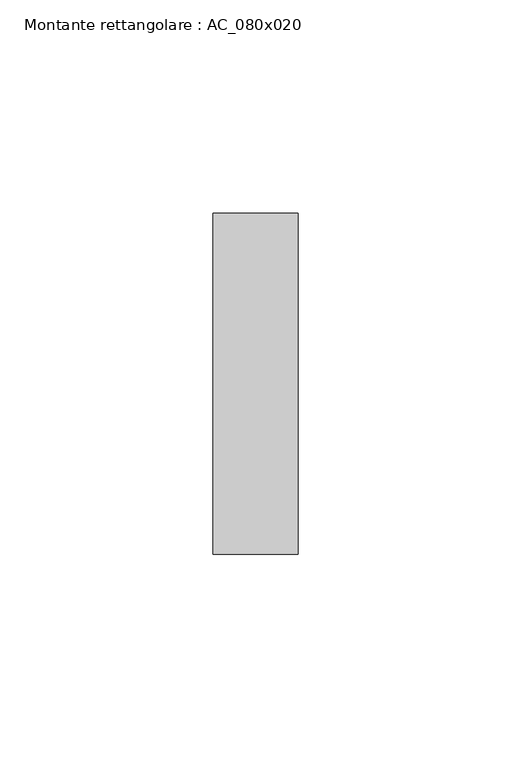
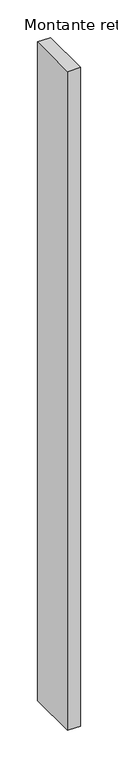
"""IFC4 building model written with IfcOpenShell, lengths in millimetres: member geometry, Montante rettangolare : AC_080x020."""

from ifc_helpers import new_model, si_unit, frame, origin, place, context, project, spatial, polyline, outline, extrude, source, transform, mapped, element, save


def montante_rettangolare_ac_080x020_cc3f91c2(model_context):
    return source(origin(), model_context, "Body", "SweptSolid", [
        extrude(outline(polyline([(0.0, 40.0), (0.0, -40.0), (-20.0, -40.0), (-20.0, 40.0), (0.0, 40.0)])), frame((0.0, 0.0, -1070.0), z_axis=(0.0, 0.0, 1.0), x_axis=(1.0, 0.0, 0.0)), (0.0, 0.0, 1.0), 1070.0),
    ])


if __name__ == "__main__":
    model = new_model("IFC4")
    model_context = context("Model", 3, world=origin())
    ifc_project = project(units=[si_unit("LENGTHUNIT", "METRE", prefix="MILLI")], contexts=[model_context])
    site = spatial("IfcSite", under=ifc_project)
    building = spatial("IfcBuilding", under=site)
    placement = place(None, origin())
    montante_rettangolare_ac_080x020_shape = montante_rettangolare_ac_080x020_cc3f91c2(model_context)
    element("IfcMember", 1, ObjectType="Montante rettangolare : AC_080x020", at=placement, inside=building, context=model_context, shape_type="MappedRepresentation", body=[
        mapped(montante_rettangolare_ac_080x020_shape, transform((0.0, 0.0, 0.0), x_axis=(1.0, 0.0, 0.0), y_axis=(0.0, 1.0, 0.0), z_axis=(0.0, 0.0, 1.0))),
    ])
    save(model, "model.ifc")
